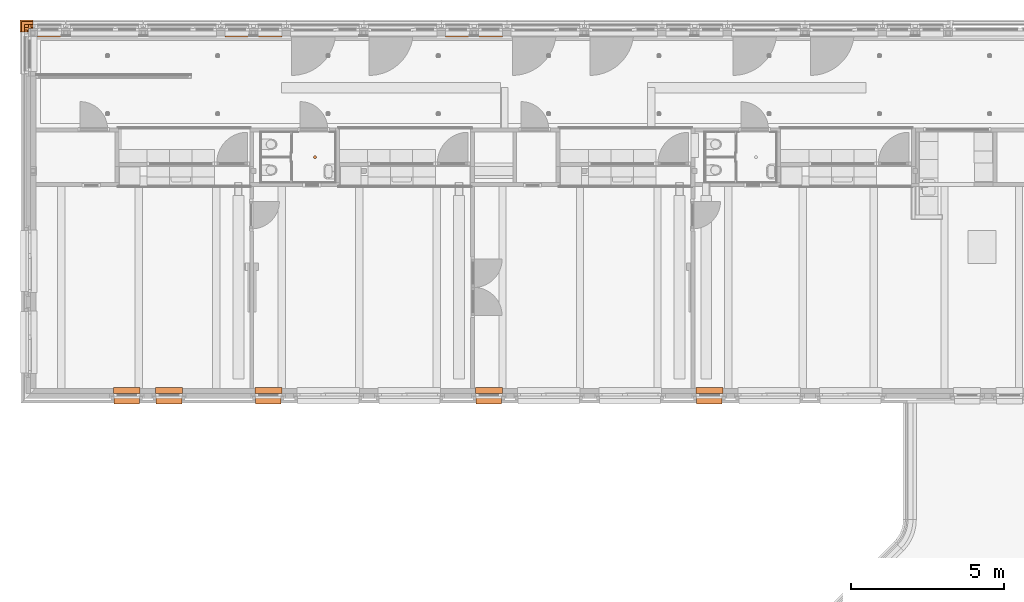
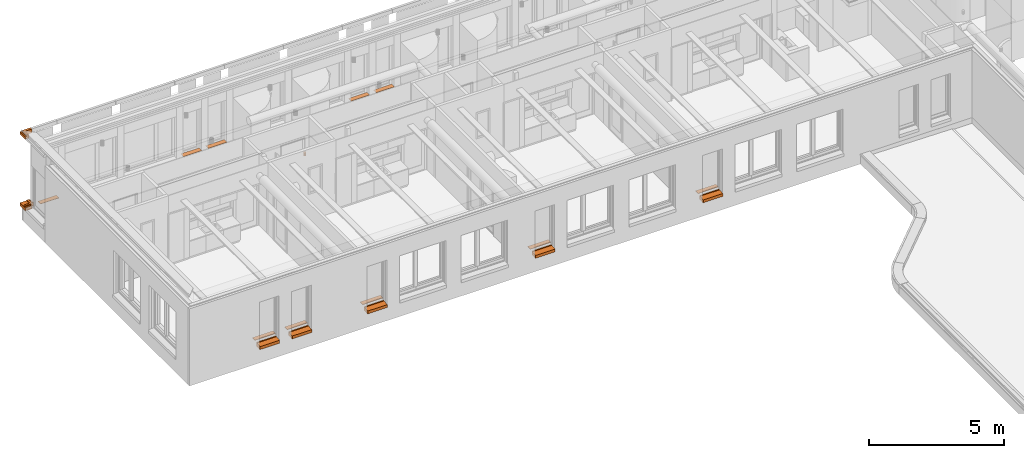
# One storey, part 124 of 128: 18 proxies.
"""IFC2X3 building model written with IfcOpenShell, lengths in millimetres."""

from ifc_helpers import new_model, entity, si_unit, converted_unit, derived_unit, direction, frame, frame_2d, origin, origin_2d_with_axis, place, context, subcontext, project, spatial, polyline, circle_curve, parameter, trimmed, segment, composite_curve, rectangle, circle, outline, extrude, faceted_brep, source, transform, mapped, material, type_object, type_shapes, element, save


model = new_model("IFC2X3")

# Units and contexts
model_context = context("Model", 3, precision=0.01, world=origin(), true_north=direction((6.123031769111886e-17, 1.0)))
body_context = subcontext(model_context, "Body", "Model", "MODEL_VIEW")
ifc_project = project(units=[si_unit("LENGTHUNIT", "METRE", prefix="MILLI"), si_unit("AREAUNIT", "SQUARE_METRE"), si_unit("VOLUMEUNIT", "CUBIC_METRE"), converted_unit("PLANEANGLEUNIT", "DEGREE", entity("IfcRatioMeasure", 0.017453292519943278), si_unit("PLANEANGLEUNIT", "RADIAN"), dimensions=[0, 0, 0, 0, 0, 0, 0]), si_unit("MASSUNIT", "GRAM", prefix="KILO"), derived_unit("MASSDENSITYUNIT", [(si_unit("MASSUNIT", "GRAM", prefix="KILO"), 1), (si_unit("LENGTHUNIT", "METRE"), -3)]), derived_unit("IONCONCENTRATIONUNIT", [(si_unit("MASSUNIT", "GRAM", prefix="KILO"), 1), (si_unit("LENGTHUNIT", "METRE"), -3)]), derived_unit("MOMENTOFINERTIAUNIT", [(si_unit("LENGTHUNIT", "METRE"), 4)]), si_unit("TIMEUNIT", "SECOND"), si_unit("FREQUENCYUNIT", "HERTZ"), si_unit("THERMODYNAMICTEMPERATUREUNIT", "DEGREE_CELSIUS"), derived_unit("THERMALTRANSMITTANCEUNIT", [(si_unit("MASSUNIT", "GRAM", prefix="KILO"), 1), (si_unit("THERMODYNAMICTEMPERATUREUNIT", "KELVIN"), -1), (si_unit("TIMEUNIT", "SECOND"), -3)]), derived_unit("THERMALCONDUCTANCEUNIT", [(si_unit("MASSUNIT", "GRAM", prefix="KILO"), 1), (si_unit("THERMODYNAMICTEMPERATUREUNIT", "KELVIN"), -1), (si_unit("TIMEUNIT", "SECOND"), -3), (si_unit("LENGTHUNIT", "METRE"), 1)]), derived_unit("VOLUMETRICFLOWRATEUNIT", [(si_unit("LENGTHUNIT", "METRE"), 3), (si_unit("TIMEUNIT", "SECOND"), -1)]), derived_unit("MASSFLOWRATEUNIT", [(si_unit("MASSUNIT", "GRAM", prefix="KILO"), 1), (si_unit("TIMEUNIT", "SECOND"), -1)]), derived_unit("ROTATIONALFREQUENCYUNIT", [(si_unit("TIMEUNIT", "SECOND"), -1)]), si_unit("ELECTRICCURRENTUNIT", "AMPERE"), si_unit("ELECTRICVOLTAGEUNIT", "VOLT"), si_unit("POWERUNIT", "WATT"), si_unit("FORCEUNIT", "NEWTON", prefix="KILO"), si_unit("ILLUMINANCEUNIT", "LUX"), si_unit("LUMINOUSFLUXUNIT", "LUMEN"), si_unit("LUMINOUSINTENSITYUNIT", "CANDELA"), derived_unit("USERDEFINED", [(si_unit("MASSUNIT", "GRAM", prefix="KILO"), -1), (si_unit("LENGTHUNIT", "METRE"), -2), (si_unit("TIMEUNIT", "SECOND"), 3), (si_unit("LUMINOUSFLUXUNIT", "LUMEN"), 1)]), derived_unit("USERDEFINED", [(si_unit("MASSUNIT", "GRAM", prefix="KILO"), 1), (si_unit("TIMEUNIT", "SECOND"), -3), (si_unit("LENGTHUNIT", "METRE"), 3), (si_unit("ELECTRICCURRENTUNIT", "AMPERE"), -2)]), derived_unit("SOUNDPOWERUNIT", [(si_unit("MASSUNIT", "GRAM", prefix="KILO"), 1), (si_unit("TIMEUNIT", "SECOND"), -3), (si_unit("LENGTHUNIT", "METRE"), 2)]), derived_unit("SOUNDPRESSUREUNIT", [(si_unit("MASSUNIT", "GRAM", prefix="KILO"), 1), (si_unit("LENGTHUNIT", "METRE"), -1), (si_unit("TIMEUNIT", "SECOND"), -2)]), derived_unit("LINEARVELOCITYUNIT", [(si_unit("LENGTHUNIT", "METRE"), 1), (si_unit("TIMEUNIT", "SECOND"), -1)]), si_unit("PRESSUREUNIT", "PASCAL"), derived_unit("USERDEFINED", [(si_unit("MASSUNIT", "GRAM", prefix="KILO"), 1), (si_unit("LENGTHUNIT", "METRE"), -2), (si_unit("TIMEUNIT", "SECOND"), -2)]), derived_unit("LINEARFORCEUNIT", [(si_unit("MASSUNIT", "GRAM", prefix="KILO"), 1), (si_unit("TIMEUNIT", "SECOND"), -2)]), derived_unit("PLANARFORCEUNIT", [(si_unit("MASSUNIT", "GRAM", prefix="KILO"), 1), (si_unit("LENGTHUNIT", "METRE"), -1), (si_unit("TIMEUNIT", "SECOND"), -2)]), derived_unit("SPECIFICHEATCAPACITYUNIT", [(si_unit("THERMODYNAMICTEMPERATUREUNIT", "KELVIN"), -1), (si_unit("LENGTHUNIT", "METRE"), 2), (si_unit("TIMEUNIT", "SECOND"), -2)]), derived_unit("HEATINGVALUEUNIT", [(si_unit("LENGTHUNIT", "METRE"), 2), (si_unit("TIMEUNIT", "SECOND"), -2)]), derived_unit("VAPORPERMEABILITYUNIT", [(si_unit("LENGTHUNIT", "METRE"), -1), (si_unit("TIMEUNIT", "SECOND"), 1)]), derived_unit("DYNAMICVISCOSITYUNIT", [(si_unit("MASSUNIT", "GRAM", prefix="KILO"), 1), (si_unit("TIMEUNIT", "SECOND"), -1), (si_unit("LENGTHUNIT", "METRE"), -1)]), derived_unit("THERMALEXPANSIONCOEFFICIENTUNIT", [(si_unit("THERMODYNAMICTEMPERATUREUNIT", "KELVIN"), -1)]), derived_unit("MODULUSOFELASTICITYUNIT", [(si_unit("MASSUNIT", "GRAM", prefix="KILO"), 1), (si_unit("LENGTHUNIT", "METRE"), -1), (si_unit("TIMEUNIT", "SECOND"), -2)]), derived_unit("ISOTHERMALMOISTURECAPACITYUNIT", [(si_unit("LENGTHUNIT", "METRE"), 3), (si_unit("MASSUNIT", "GRAM", prefix="KILO"), -1)]), derived_unit("MOISTUREDIFFUSIVITYUNIT", [(si_unit("TIMEUNIT", "SECOND"), -1), (si_unit("LENGTHUNIT", "METRE"), 2)])], contexts=[model_context])

# Site, building, storey, space
site_placement = place(None, frame((0.0, 300.0, 0.0)))
site = spatial("IfcSite", under=ifc_project, at=site_placement, Name="<Kadastrale nummers>", CompositionType="ELEMENT")
building_placement = place(site_placement, origin())
building = spatial("IfcBuilding", under=site, at=building_placement, CompositionType="ELEMENT")
storey_placement = place(building_placement, frame((0.0, 0.0, 3560.0000331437)))
storey = spatial("IfcBuildingStorey", under=building, at=storey_placement, Name="01 eerste verdieping", CompositionType="ELEMENT", Elevation=3560.0000331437)
space_1_placement = place(storey_placement, origin())
space_1 = spatial("IfcSpace", under=storey, at=space_1_placement, Name="1.06", CompositionType="ELEMENT", InteriorOrExteriorSpace="INTERNAL")

# Proxies
ifc_material_1 = material(Name="<Unnamed>")
building_element_proxy_type_1 = type_object("IfcBuildingElementProxyType", Name="63_DAT_Spotverlichting:2400", PredefinedType="NOTDEFINED", material=ifc_material_1)
shared_shape_1 = source(origin(), body_context, "Body", "SweptSolid", [
    extrude(circle(Radius=50.0, at=frame_2d((0.0, -2.251062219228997e-13), x_axis=(1.0, 0.0))), frame((0.0, 0.0, 2250.0)), (0.0, 0.0, 1.0), 150.0),
])
type_shapes(building_element_proxy_type_1, [shared_shape_1])
proxy_1_placement = place(space_1_placement, frame((12205.000688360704, 45745.0, 90.00000187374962), z_axis=(0.0, 0.0, 1.0), x_axis=(0.0, -1.0, 0.0)))
element("IfcBuildingElementProxy", 1, at=proxy_1_placement, inside=space_1, type_object=building_element_proxy_type_1, material=ifc_material_1, Name="63_DAT_Spotverlichting:2400", ObjectType="63_DAT_Spotverlichting:2400", context=body_context, shape_type="MappedRepresentation", body=[
    mapped(shared_shape_1, transform((0.0, 0.0, 0.0), scale=1.0)),
])
ifc_material_2 = material(Name="ISR_Beton_prefab")
building_element_proxy_type_2 = type_object("IfcBuildingElementProxyType", Name="29_DAT_Prefab betonband afgeschuind_Hoek oplossing:29_DAT_Prefab betonband afgeschuind_Hoek oplossing", PredefinedType="NOTDEFINED", material=ifc_material_2)
shared_shape_2 = source(origin(), body_context, "Body", "Brep", [
    faceted_brep([(-150.0, -422.0, 175.0), (-150.0, -422.0, 0.0), (0.0, -422.0, 0.0), (0.0, -422.0, 102.49999999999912), (-50.0, -422.0, 112.49999999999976), (-50.0, -422.0, 175.0), (-150.0, -150.0, 0.0), (-392.0, -150.0, 0.0), (-392.0, 0.0, 0.0), (0.0, 0.0, 0.0), (0.0, 0.0, 102.4999999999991), (-50.0, -50.0, 112.49999999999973), (-50.0, -50.0, 175.0), (-392.0, -50.0, 175.0), (-392.0, -150.0, 175.0), (-150.0, -150.0, 175.0), (-392.0, -50.0, 112.49999999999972), (-392.0, 0.0, 102.4999999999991)], [[[0, 1, 2, 3, 4, 5]], [[2, 1, 6, 7, 8, 9]], [[3, 2, 9, 10]], [[4, 3, 10, 11]], [[5, 4, 11, 12]], [[0, 5, 12, 13, 14, 15]], [[0, 15, 6, 1]], [[7, 14, 13, 16, 17, 8]], [[10, 9, 8, 17]], [[11, 10, 17, 16]], [[12, 11, 16, 13]], [[6, 15, 14, 7]]]),
])
type_shapes(building_element_proxy_type_2, [shared_shape_2])
proxy_2_placement = place(storey_placement, frame((2575.0, 50225.0, 3964.999966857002), z_axis=(0.0, 0.0, 1.0), x_axis=(0.0, 1.0, 0.0)))
element("IfcBuildingElementProxy", 2, at=proxy_2_placement, inside=storey, type_object=building_element_proxy_type_2, material=ifc_material_2, Name="29_DAT_Prefab betonband afgeschuind_Hoek oplossing:29_DAT_Prefab betonband afgeschuind_Hoek oplossing", ObjectType="29_DAT_Prefab betonband afgeschuind_Hoek oplossing:29_DAT_Prefab betonband afgeschuind_Hoek oplossing", context=body_context, shape_type="MappedRepresentation", body=[
    mapped(shared_shape_2, transform((0.0, 0.0, 0.0), scale=1.0)),
])
building_element_proxy_type_3 = type_object("IfcBuildingElementProxyType", Name="29_DAT_Prefab betonnen waterslag lang Hoekoplossing:29_DAT_Prefab betonnen waterslag lang Hoekoplossing", PredefinedType="NOTDEFINED", material=ifc_material_2)
shared_shape_3 = source(origin(), body_context, "Body", "Brep", [
    faceted_brep([(-20.0, -275.0, 175.0), (-20.0, -275.0, 132.83432784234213), (-250.0, -275.0, 152.9567204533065), (-250.0, -275.0, 175.0), (-20.0, -355.0, 175.0), (-250.0, -355.0, 175.0), (-250.0, -355.0, 152.9567204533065), (-20.0, -355.0, 132.83432784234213)], [[[0, 1, 2, 3]], [[4, 5, 6, 7]], [[3, 5, 4, 0]], [[2, 6, 5, 3]], [[1, 7, 6, 2]], [[0, 4, 7, 1]]]),
    faceted_brep([(-245.0, -20.0, 175.0), (-245.0, -250.0, 175.0), (-245.0, -250.0, 152.9567204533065), (-245.0, -20.0, 132.83432784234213), (-325.0, -20.0, 175.0), (-325.0, -20.0, 132.83432784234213), (-325.0, -250.0, 152.9567204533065), (-325.0, -250.0, 175.0)], [[[0, 1, 2, 3]], [[4, 5, 6, 7]], [[1, 0, 4, 7]], [[2, 1, 7, 6]], [[3, 2, 6, 5]], [[0, 3, 5, 4]]]),
    faceted_brep([(0.0, -422.0, 0.0), (-20.0, -422.0, 0.0), (-20.0, -343.92311336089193, 0.0), (-20.0, -282.4615566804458, 0.0), (-20.0, -221.0, 0.0), (-20.0, -159.53844331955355, 0.0), (-20.0, -98.0768866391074, 0.0), (-20.0, -20.0, 0.0), (-98.07688392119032, -20.0, 0.0), (-152.03844139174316, -20.0, 0.0), (-205.99999886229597, -20.0, 0.0), (-259.96155633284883, -20.0, 0.0), (-313.92311380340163, -20.0, 0.0), (-392.0, -20.0, 0.0), (-392.0, 0.0, 0.0), (0.0, 0.0, 0.0), (-280.0, -280.0, 0.0), (-392.0, -280.0, 0.0), (-392.0, -30.0, 0.0), (-313.9231167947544, -30.0, 0.0), (-235.84622954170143, -30.0, 0.0), (-171.9615583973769, -30.0, 0.0), (-108.07688725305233, -30.0, 0.0), (-30.0, -30.0, 0.0), (-30.0, -108.07688688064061, 0.0), (-30.0, -147.92311550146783, 0.0), (-30.0, -206.8846708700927, 0.0), (-30.0, -265.8462262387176, 0.0), (-30.0, -343.92311311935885, 0.0), (-30.0, -422.0, 0.0), (-280.0, -422.0, 0.0), (-29.829629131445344, -422.0, 1.2940952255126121), (-29.330127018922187, -422.0, 2.50000000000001), (-28.535533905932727, -422.0, 3.535533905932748), (-27.499999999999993, -422.0, 4.3301270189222), (-26.294095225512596, -422.0, 4.829629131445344), (-25.0, -422.0, 5.0), (-23.705904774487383, -422.0, 4.829629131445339), (-22.499999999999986, -422.0, 4.330127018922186), (-21.464466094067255, -422.0, 3.535533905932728), (-20.669872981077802, -422.0, 2.4999999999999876), (-20.170370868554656, -422.0, 1.294095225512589), (0.0, -422.0, 131.12783411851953), (-250.0, -422.0, 153.0), (-250.0, -422.0, 175.0), (-280.0, -422.0, 175.0), (-392.0, -280.0, 175.0), (-392.0, -250.0, 175.0), (-392.0, -250.0, 153.0), (-392.0, 0.0, 131.12783411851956), (-392.0, -20.170370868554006, 1.2940952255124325), (-392.0, -20.66987298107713, 2.4999999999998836), (-392.0, -21.464466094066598, 3.535533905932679), (-392.0, -22.49999999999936, 4.330127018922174), (-392.0, -23.70590477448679, 4.829629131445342), (-392.0, -25.0, 5.0), (-392.0, -26.294095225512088, 4.8296291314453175), (-392.0, -27.49999999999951, 4.330127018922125), (-392.0, -28.535533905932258, 3.535533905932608), (-392.0, -29.330127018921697, 2.4999999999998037), (-392.0, -29.829629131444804, 1.2940952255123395), (-280.0, -280.0, 175.0), (0.0, 0.0, 131.12783411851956), (-250.0, -250.0, 153.0), (-250.0, -250.0, 175.0), (-25.652630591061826, -367.59616216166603, 4.9572243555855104), (-23.705904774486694, -23.705904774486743, 4.8296291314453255), (-24.662301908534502, -76.47207706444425, 4.988582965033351), (-25.0, -25.0, 5.0), (-26.013178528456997, -181.85769351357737, 4.896270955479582), (-25.397569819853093, -236.36544527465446, 4.984168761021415), (-24.99999989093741, -313.1923312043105, 5.0), (-27.499999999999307, -27.499999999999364, 4.3301270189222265), (-26.294095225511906, -26.294095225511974, 4.8296291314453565), (-29.330127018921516, -29.330127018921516, 2.5000000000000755), (-20.170370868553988, -20.170370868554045, 1.2940952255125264), (-24.686813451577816, -127.9999980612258, 4.990181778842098), (-22.4999999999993, -22.499999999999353, 4.3301270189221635), (-29.829629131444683, -29.829629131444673, 1.2940952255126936), (-20.66987298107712, -20.6698729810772, 2.4999999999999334), (-21.464466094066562, -21.464466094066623, 3.5355339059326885), (-28.535533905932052, -28.535533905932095, 3.5355339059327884), (-216.90294788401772, -25.15085263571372, 4.997723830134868), (-125.05766886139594, -24.723746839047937, 4.992362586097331), (-333.4423363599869, -24.90567355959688, 4.999110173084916), (-274.8846727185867, -25.0, 5.0)], [[[0, 1, 2, 3, 4, 5, 6, 7, 8, 9, 10, 11, 12, 13, 14, 15]], [[16, 17, 18, 19, 20, 21, 22, 23, 24, 25, 26, 27, 28, 29, 30]], [[31, 32, 33, 34, 35, 36, 37, 38, 39, 40, 41, 1, 0, 42, 43, 44, 45, 30, 29]], [[18, 17, 46, 47, 48, 49, 14, 13, 50, 51, 52, 53, 54, 55, 56, 57, 58, 59, 60]], [[30, 45, 61, 16]], [[42, 0, 15, 62]], [[43, 42, 62, 63]], [[44, 43, 63, 64]], [[44, 64, 47, 46, 61, 45]], [[16, 61, 46, 17]], [[62, 15, 14, 49]], [[63, 62, 49, 48]], [[64, 63, 48, 47]], [[65, 34, 33]], [[66, 67, 68]], [[69, 70, 26]], [[71, 65, 28]], [[71, 28, 27]], [[67, 72, 73]], [[24, 74, 67]], [[75, 7, 6]], [[2, 1, 41]], [[27, 70, 71]], [[3, 71, 70]], [[36, 65, 37]], [[24, 76, 25]], [[71, 2, 65]], [[31, 28, 65]], [[66, 77, 67]], [[4, 3, 70]], [[78, 74, 24]], [[4, 70, 69]], [[3, 2, 71]], [[5, 4, 69]], [[69, 76, 5]], [[6, 67, 79]], [[26, 25, 69]], [[40, 2, 41]], [[31, 29, 28]], [[24, 23, 78]], [[67, 73, 68]], [[32, 31, 65]], [[24, 67, 76]], [[26, 70, 27]], [[67, 80, 79]], [[81, 67, 74]], [[40, 65, 2]], [[67, 77, 80]], [[75, 6, 79]], [[38, 65, 39]], [[67, 6, 76]], [[36, 35, 65]], [[35, 34, 65]], [[38, 37, 65]], [[65, 40, 39]], [[32, 65, 33]], [[76, 69, 25]], [[67, 81, 72]], [[76, 6, 5]], [[21, 20, 82]], [[82, 9, 83]], [[54, 53, 84]], [[52, 51, 84]], [[78, 22, 74]], [[12, 84, 51]], [[57, 56, 84]], [[79, 80, 8]], [[10, 9, 82, 11]], [[19, 18, 60]], [[22, 78, 23]], [[13, 12, 50]], [[8, 7, 75]], [[82, 83, 21]], [[85, 11, 82]], [[85, 12, 11]], [[75, 79, 8]], [[72, 22, 83]], [[53, 52, 84]], [[84, 58, 57]], [[84, 85, 19]], [[59, 19, 60]], [[59, 84, 19]], [[50, 12, 51]], [[68, 73, 83]], [[81, 74, 22]], [[83, 22, 21]], [[19, 85, 20]], [[68, 83, 8]], [[82, 20, 85]], [[56, 55, 84]], [[22, 72, 81]], [[73, 72, 83]], [[55, 54, 84]], [[66, 8, 77]], [[12, 85, 84]], [[68, 8, 66]], [[80, 77, 8]], [[83, 9, 8]], [[59, 58, 84]]]),
])
type_shapes(building_element_proxy_type_3, [shared_shape_3])
proxy_3_placement = place(storey_placement, frame((2575.0, 50225.0, 715.0000018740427), z_axis=(0.0, 0.0, 1.0), x_axis=(0.0, 1.0, 0.0)))
element("IfcBuildingElementProxy", 3, at=proxy_3_placement, inside=storey, type_object=building_element_proxy_type_3, material=ifc_material_2, Name="29_DAT_Prefab betonnen waterslag lang Hoekoplossing:29_DAT_Prefab betonnen waterslag lang Hoekoplossing", ObjectType="29_DAT_Prefab betonnen waterslag lang Hoekoplossing:29_DAT_Prefab betonnen waterslag lang Hoekoplossing", context=body_context, shape_type="MappedRepresentation", body=[
    mapped(shared_shape_3, transform((0.0, 0.0, 0.0), scale=1.0)),
])

# Space
space_2_placement = place(storey_placement, origin())
space_2 = spatial("IfcSpace", under=storey, at=space_2_placement, Name="1.11", CompositionType="ELEMENT", InteriorOrExteriorSpace="INTERNAL")

# Proxies
ifc_material_3 = material(Name="e1_natuursteen")
building_element_proxy_type_4 = type_object("IfcBuildingElementProxyType", Name="NLRS_31_GM_WPB_vensterbank natuursteen -SH_gen_ASN:200x18", PredefinedType="USERDEFINED", material=ifc_material_3)
shared_shape_4 = source(origin(), body_context, "Body", "SweptSolid", [
    extrude(rectangle(XDim=200.0, YDim=789.9989494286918, at=origin_2d_with_axis()), frame((0.0, -100.0, 0.0), z_axis=(0.0, 0.0, 1.0), x_axis=(0.0, -1.0, 0.0)), (0.0, 0.0, 1.0), 17.999999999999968),
])
type_shapes(building_element_proxy_type_4, [shared_shape_4])
for number, where, z_axis, x_axis, name in (
    (4, (17935.00052528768, 49668.0, 920.0000018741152), (0.0, 0.0, 1.0), (-1.0, 0.0, 0.0), "NLRS_31_GM_WPB_vensterbank natuursteen -SH_gen_ASN:200x18"),
    (5, (16865.000525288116, 49668.0, 920.0000018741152), (0.0, 0.0, 1.0), (-1.0, 0.0, 0.0), "NLRS_31_GM_WPB_vensterbank natuursteen -SH_gen_ASN:200x18"),
    (6, (10735.000525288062, 49668.0, 920.0000018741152), (0.0, 0.0, 1.0), (-1.0, 0.0, 0.0), "NLRS_31_GM_WPB_vensterbank natuursteen -SH_gen_ASN:200x18"),
    (7, (9665.000525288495, 49668.0, 920.0000018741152), (0.0, 0.0, 1.0), (-1.0, 0.0, 0.0), "NLRS_31_GM_WPB_vensterbank natuursteen -SH_gen_ASN:200x18"),
):
    element("IfcBuildingElementProxy", number, at=place(space_2_placement, frame(where, z_axis=z_axis, x_axis=x_axis)), inside=space_2, type_object=building_element_proxy_type_4, material=ifc_material_3, Name=name, ObjectType="NLRS_31_GM_WPB_vensterbank natuursteen -SH_gen_ASN:200x18", context=body_context, shape_type="MappedRepresentation", body=[
        mapped(shared_shape_4, transform((0.0, 0.0, 0.0), scale=1.0)),
    ])
proxy_4_placement = place(storey_placement, frame((3535.000525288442, 49668.0, 920.0000018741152), z_axis=(0.0, 0.0, 1.0), x_axis=(-1.0, 0.0, 0.0)))
element("IfcBuildingElementProxy", 8, at=proxy_4_placement, inside=storey, type_object=building_element_proxy_type_4, material=ifc_material_3, Name="NLRS_31_GM_WPB_vensterbank natuursteen -SH_gen_ASN:200x18", ObjectType="NLRS_31_GM_WPB_vensterbank natuursteen -SH_gen_ASN:200x18", context=body_context, shape_type="MappedRepresentation", body=[
    mapped(shared_shape_4, transform((0.0, 0.0, 0.0), scale=1.0)),
])
building_element_proxy_type_5 = type_object("IfcBuildingElementProxyType", Name="NLRS_31_GM_WPB_vensterbank natuursteen -SH_gen_ASN:200x18", PredefinedType="USERDEFINED", material=ifc_material_3)
shared_shape_5 = source(origin(), body_context, "Body", "SweptSolid", [
    extrude(rectangle(XDim=200.0, YDim=880.0000000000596, at=origin_2d_with_axis()), frame((0.0, -100.0, 0.0), z_axis=(0.0, 0.0, 1.0), x_axis=(0.0, -1.0, 0.0)), (0.0, 0.0, 1.0), 17.999999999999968),
])
type_shapes(building_element_proxy_type_5, [shared_shape_5])
for number, where, z_axis, x_axis, name in (
    (9, (10680.0, 38030.0, 920.0000018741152), (0.0, 0.0, 1.0), (-1.0, 0.0, 0.0), "NLRS_31_GM_WPB_vensterbank natuursteen -SH_gen_ASN:200x18"),
    (10, (17880.0, 38030.0, 920.0000018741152), (0.0, 0.0, 1.0), (-1.0, 0.0, 0.0), "NLRS_31_GM_WPB_vensterbank natuursteen -SH_gen_ASN:200x18"),
    (11, (25080.0, 38030.0, 920.0000018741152), (0.0, 0.0, 1.0), (-1.0, 0.0, 0.0), "NLRS_31_GM_WPB_vensterbank natuursteen -SH_gen_ASN:200x18"),
    (12, (7440.0, 38030.0, 920.0000018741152), (0.0, 0.0, 1.0), (-1.0, 0.0, 0.0), "NLRS_31_GM_WPB_vensterbank natuursteen -SH_gen_ASN:200x18"),
    (13, (6060.0, 38030.0, 920.0000018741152), (0.0, 0.0, 1.0), (-1.0, 0.0, 0.0), "NLRS_31_GM_WPB_vensterbank natuursteen -SH_gen_ASN:200x18"),
):
    element("IfcBuildingElementProxy", number, at=place(storey_placement, frame(where, z_axis=z_axis, x_axis=x_axis)), inside=storey, type_object=building_element_proxy_type_5, material=ifc_material_3, Name=name, ObjectType="NLRS_31_GM_WPB_vensterbank natuursteen -SH_gen_ASN:200x18", context=body_context, shape_type="MappedRepresentation", body=[
        mapped(shared_shape_5, transform((0.0, 0.0, 0.0), scale=1.0)),
    ])
building_element_proxy_type_6 = type_object("IfcBuildingElementProxyType", Name="29_DAT_Prefab betonnen waterslag kort:29_DAT_Prefab betonnen waterslag kort", PredefinedType="NOTDEFINED", material=ifc_material_2)
shared_shape_6 = source(origin(), body_context, "Body", "SweptSolid", [
    extrude(outline(composite_curve([segment(polyline([(-95.62465990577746, -137.5), (79.37534009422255, -137.5)]), True, "CONTINUOUS"), segment(polyline([(79.37534009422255, -137.5), (79.37534009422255, 107.49999999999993)]), True, "CONTINUOUS"), segment(trimmed(circle_curve(frame_2d((79.37534009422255, 112.49999999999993), x_axis=(0.0, 1.0)), 5.000000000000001), [parameter(4.0711099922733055e-13)], [parameter(180.00000000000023)], True, "PARAMETER"), False, "CONTINUOUS"), segment(polyline([(79.37534009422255, 117.49999999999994), (79.37534009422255, 132.5)]), True, "CONTINUOUS"), segment(polyline([(79.37534009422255, 132.5), (-52.6273806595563, 132.5)]), True, "CONTINUOUS"), segment(polyline([(-52.62738065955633, 132.50000000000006), (-73.62465990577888, -107.49999999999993)]), True, "CONTINUOUS"), segment(polyline([(-73.62465990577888, -107.49999999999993), (-95.62465990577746, -107.49999999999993)]), True, "CONTINUOUS"), segment(polyline([(-95.62465990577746, -107.49999999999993), (-95.62465990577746, -137.5)]), True, "CONTINUOUS")], self_intersect=False)), frame((0.0, -82.50000000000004, -95.62465990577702), z_axis=(1.0, 0.0, 0.0), x_axis=(0.0, 0.0, -1.0)), (0.0, 0.0, 1.0), 840.0000000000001),
])
type_shapes(building_element_proxy_type_6, [shared_shape_6])
for number, where, z_axis, x_axis, name in (
    (14, (11100.0, 37735.0, 890.0000018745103), (0.0, 0.0, 1.0), (-1.0, 0.0, 0.0), "29_DAT_Prefab betonnen waterslag kort:29_DAT_Prefab betonnen waterslag kort"),
    (15, (18300.0, 37735.0, 890.0000018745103), (0.0, 0.0, 1.0), (-1.0, 0.0, 0.0), "29_DAT_Prefab betonnen waterslag kort:29_DAT_Prefab betonnen waterslag kort"),
    (16, (25500.0, 37735.0, 890.0000018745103), (0.0, 0.0, 1.0), (-1.0, 0.0, 0.0), "29_DAT_Prefab betonnen waterslag kort:29_DAT_Prefab betonnen waterslag kort"),
    (17, (7860.0, 37735.0, 890.0000018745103), (0.0, 0.0, 1.0), (-1.0, 0.0, 0.0), "29_DAT_Prefab betonnen waterslag kort:29_DAT_Prefab betonnen waterslag kort"),
    (18, (6480.0, 37735.0, 890.0000018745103), (0.0, 0.0, 1.0), (-1.0, 0.0, 0.0), "29_DAT_Prefab betonnen waterslag kort:29_DAT_Prefab betonnen waterslag kort"),
):
    element("IfcBuildingElementProxy", number, at=place(storey_placement, frame(where, z_axis=z_axis, x_axis=x_axis)), inside=storey, type_object=building_element_proxy_type_6, material=ifc_material_2, Name=name, ObjectType="29_DAT_Prefab betonnen waterslag kort:29_DAT_Prefab betonnen waterslag kort", context=body_context, shape_type="MappedRepresentation", body=[
        mapped(shared_shape_6, transform((0.0, 0.0, 0.0), scale=1.0)),
    ])

save(model, "model.ifc")
